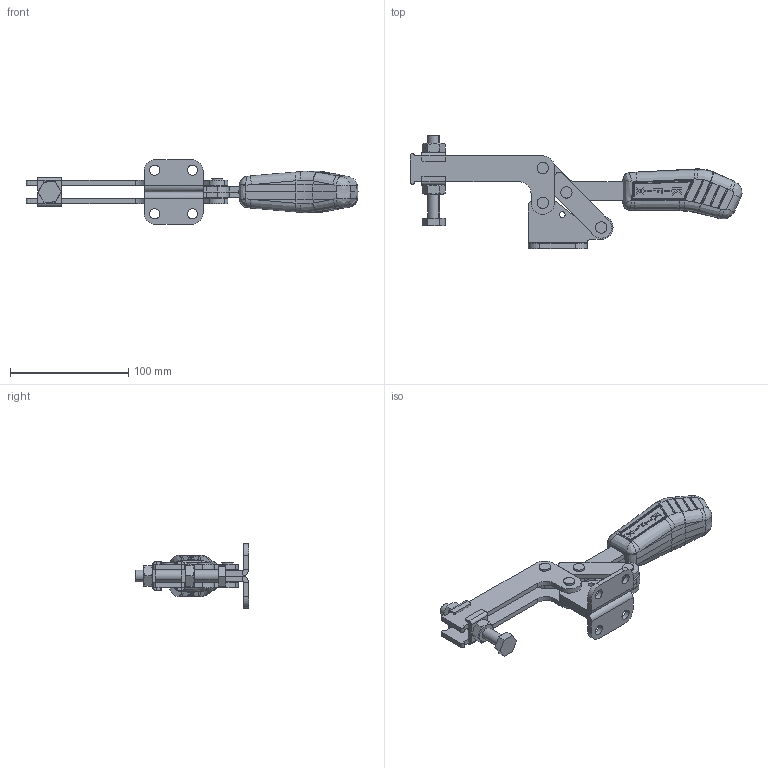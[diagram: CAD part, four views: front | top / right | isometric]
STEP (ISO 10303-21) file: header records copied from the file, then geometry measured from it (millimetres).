
FILE_DESCRIPTION (( 'STEP AP203' ), '1' );
FILE_NAME ('KF-531 DIL.STEP', '2014-08-18T14:29:45', ( 'Ricardo' ), ( '' ), 'SwSTEP 2.0', 'SolidWorks 2013', '' );
FILE_SCHEMA (( 'CONFIG_CONTROL_DESIGN' ));
Length unit declared in the file: millimetre
Products named in the file (12): 14.10003; 12.50021; 02.12035_Direita; 11.50003; 02.12035_Esquerda; 17.50002; 01.10043; KF-531 DIL; 03.13050; 08.10008; 06.50026; 07.60002
Assembly tree (26 placements, depth 2):
  KF-531 DIL
    02.12035_Direita
    02.12035_Esquerda
    01.10043  x2
    03.13050  x2
    08.10008  x2
    06.50026  x4
    07.60002
    14.10003  x2
    12.50021
    11.50003  x2
    17.50002  x8
Bounding box: 281.19 x 95.84 x 55 mm (x, y, z)
Volume: 184836.3 mm3; surface area: 81342.4 mm2
Topology: 26 solids, 26 shells, 802 faces, 1958 edges, 1217 vertices
Faces by surface type: plane 270, cylinder 226, bspline 159, cone 92, sphere 52, torus 3
Entity records: 23173 total; most frequent: CARTESIAN_POINT 8839, ORIENTED_EDGE 2902, DIRECTION 2246, EDGE_CURVE 1451, VERTEX_POINT 916, AXIS2_PLACEMENT_3D 856, EDGE_LOOP 643, FACE_OUTER_BOUND 580
